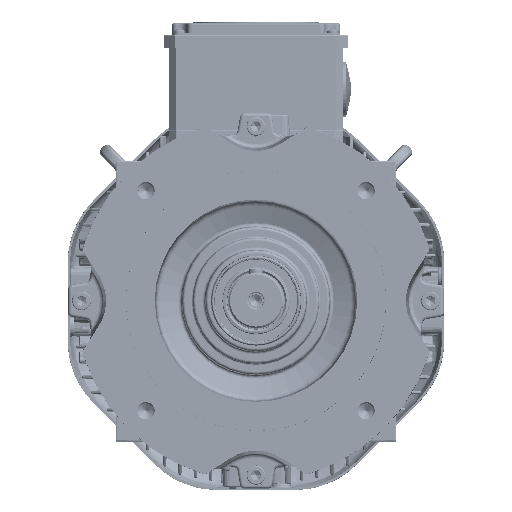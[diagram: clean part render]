
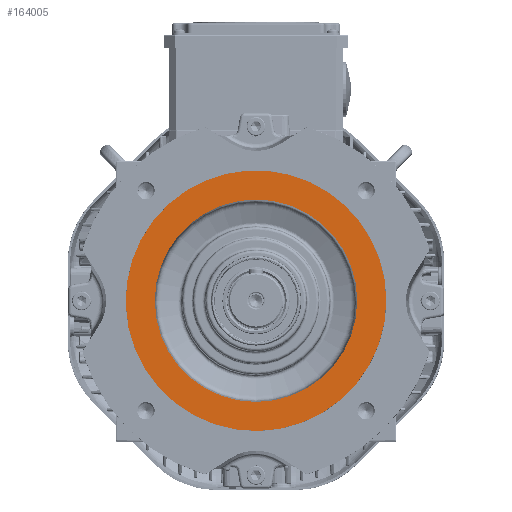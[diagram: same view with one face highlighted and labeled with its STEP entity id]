
A CAD part, top view. The second image highlights one B-rep face of the part: STEP entity #164005.
In plain terms, the highlighted planar face has unit normal (0, 0, 1).
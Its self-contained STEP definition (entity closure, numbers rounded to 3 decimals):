
#51456=PLANE('',#211995);
#57962=EDGE_LOOP('',(#86365));
#57963=EDGE_LOOP('',(#86366));
#86365=ORIENTED_EDGE('',*,*,#137185,.T.);
#86366=ORIENTED_EDGE('',*,*,#135219,.T.);
#135219=EDGE_CURVE('',#180726,#180726,#197098,.T.);
#137185=EDGE_CURVE('',#181799,#181799,#197823,.T.);
#164005=ADVANCED_FACE('',(#175075,#175076),#51456,.T.);
#175075=FACE_BOUND('',#57962,.T.);
#175076=FACE_BOUND('',#57963,.T.);
#180726=VERTEX_POINT('',#342121);
#181799=VERTEX_POINT('',#356383);
#197098=CIRCLE('',#210616,69.913);
#197823=CIRCLE('',#211993,90.);
#210616=AXIS2_PLACEMENT_3D('',#342120,#239909,#239910);
#211993=AXIS2_PLACEMENT_3D('',#356382,#243086,#243087);
#211995=AXIS2_PLACEMENT_3D('',#356385,#243090,#243091);
#239909=DIRECTION('',(0.,0.,-1.));
#239910=DIRECTION('',(-1.,0.,0.));
#243086=DIRECTION('',(0.,0.,1.));
#243087=DIRECTION('',(1.,0.,0.));
#243090=DIRECTION('',(0.,0.,1.));
#243091=DIRECTION('',(-1.,0.,0.));
#342120=CARTESIAN_POINT('',(-0.001,-0.004,
76.495));
#342121=CARTESIAN_POINT('',(-69.914,-0.004,76.496));
#356382=CARTESIAN_POINT('',(-0.001,-0.004,
76.495));
#356383=CARTESIAN_POINT('',(89.999,-0.004,76.494));
#356385=CARTESIAN_POINT('',(-0.001,-0.004,
76.495));
